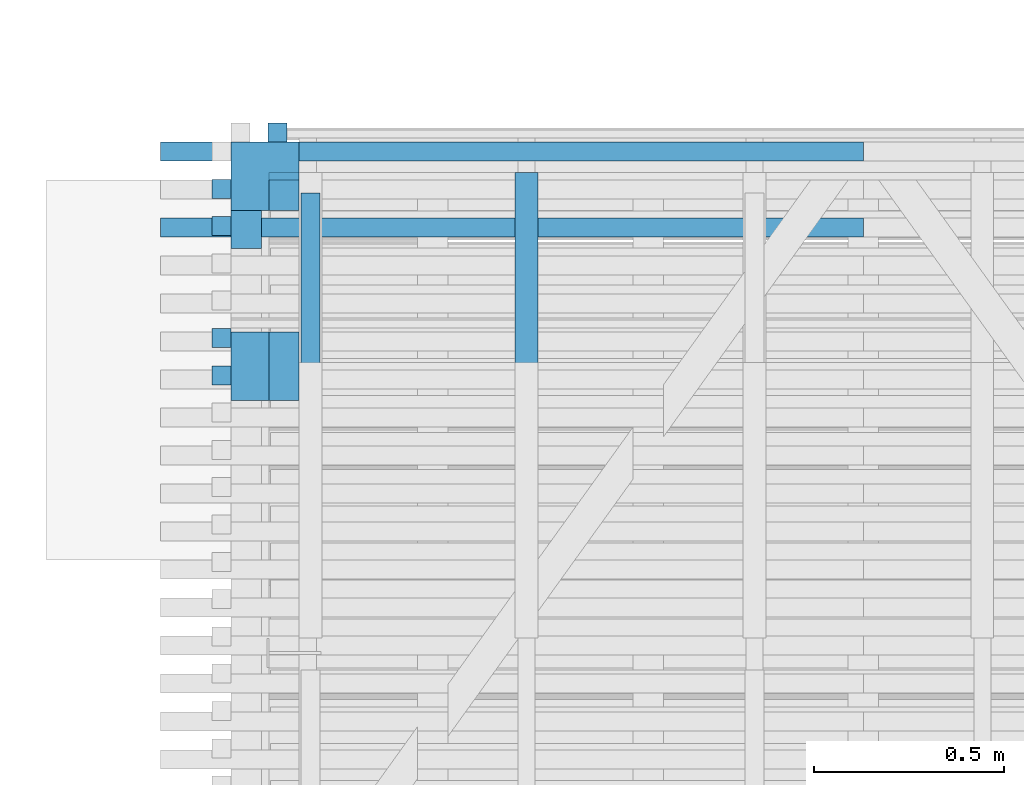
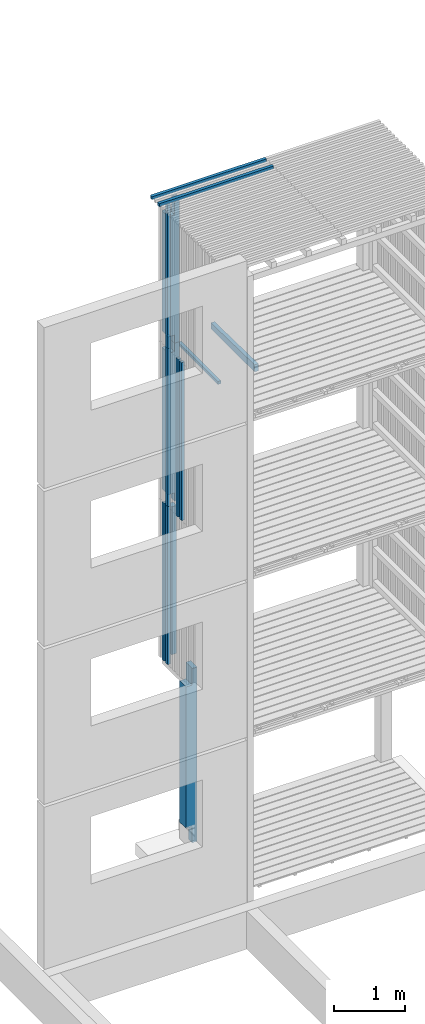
# One storey, part 93 of 182: 15 beams.
"""IFC2X3 building model written with IfcOpenShell, lengths in metres."""

from ifc_helpers import new_model, si_unit, frame, origin, place, context, project, spatial, faceted_brep, element, save


model = new_model("IFC2X3")

# Units and contexts
model_context = context("Model", 3, precision=1e-06, world=origin())
ifc_project = project(units=[si_unit("LENGTHUNIT", "METRE"), si_unit("PLANEANGLEUNIT", "RADIAN")], contexts=[model_context])

# Site, building, storey
site = spatial("IfcSite", under=ifc_project, CompositionType="ELEMENT")
building = spatial("IfcBuilding", under=site, CompositionType="ELEMENT")
storey = spatial("IfcBuildingStorey", under=building, Name="vs", CompositionType="ELEMENT", Elevation=-0.85)

# Beams
placement = place(None, origin())
beam_1_placement = place(placement, frame((43.105401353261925, 7.180077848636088, 7.979999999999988), z_axis=(0.0, -1.0, 0.0), x_axis=(0.0, 0.0, 1.0)))
element("IfcBeam", 1, at=beam_1_placement, inside=storey, Name="Poteau", context=model_context, shape_type="Brep", body=[
    faceted_brep([(2.194999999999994, -0.009999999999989, 0.089999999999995), (2.194999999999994, -0.009999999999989, 0.010000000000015), (2.194999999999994, -0.089999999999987, 0.010000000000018), (2.194999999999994, -0.089999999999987, -0.090000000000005), (2.194999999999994, 0.090000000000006, -0.090000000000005), (2.194999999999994, 0.090000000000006, 0.089999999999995), (0.139999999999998, 0.090000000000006, 0.089999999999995), (2.194999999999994, 0.090000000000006, 0.089999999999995), (2.194999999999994, 0.090000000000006, -0.090000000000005), (0.139999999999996, 0.090000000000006, -0.090000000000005), (0.059999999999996, -0.009999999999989, -0.009999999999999), (0.059999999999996, -0.089999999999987, -0.009999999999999), (-1e-15, -0.089999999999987, -0.009999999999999), (-1e-15, -0.009999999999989, -0.009999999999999), (-1e-15, -0.009999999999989, 0.089999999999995), (-1e-15, -0.009999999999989, -0.009999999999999), (-1e-15, -0.089999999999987, -0.009999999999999), (-1e-15, -0.089999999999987, 0.089999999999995), (0.139999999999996, -0.009999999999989, -0.090000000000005), (0.139999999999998, -0.009999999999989, 0.089999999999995), (0.139999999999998, 0.090000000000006, 0.089999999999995), (0.139999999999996, 0.090000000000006, -0.090000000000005), (0.059999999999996, -0.089999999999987, -0.009999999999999), (0.059999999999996, -0.009999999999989, -0.009999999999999), (0.059999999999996, -0.009999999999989, -0.090000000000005), (0.059999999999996, -0.089999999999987, -0.090000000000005), (-1e-15, -0.009999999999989, -0.009999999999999), (-1e-15, -0.009999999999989, 0.089999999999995), (0.139999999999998, -0.009999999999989, 0.089999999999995), (0.139999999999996, -0.009999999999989, -0.090000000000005), (0.059999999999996, -0.009999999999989, -0.090000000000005), (0.059999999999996, -0.009999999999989, -0.009999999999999), (0.059999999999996, -0.089999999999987, -0.090000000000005), (0.059999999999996, -0.009999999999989, -0.090000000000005), (0.139999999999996, -0.009999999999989, -0.090000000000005), (0.139999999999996, 0.090000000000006, -0.090000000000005), (2.194999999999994, 0.090000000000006, -0.090000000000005), (2.194999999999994, -0.089999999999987, -0.090000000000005), (2.474999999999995, -0.089999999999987, 0.089999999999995), (-1e-15, -0.089999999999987, 0.089999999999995), (-1e-15, -0.089999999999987, -0.009999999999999), (0.059999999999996, -0.089999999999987, -0.009999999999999), (0.059999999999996, -0.089999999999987, -0.090000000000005), (2.194999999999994, -0.089999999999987, -0.090000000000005), (2.194999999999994, -0.089999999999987, 0.010000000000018), (2.474999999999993, -0.089999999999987, 0.010000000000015), (2.474999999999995, -0.089999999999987, 0.089999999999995), (2.474999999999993, -0.089999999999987, 0.010000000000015), (2.474999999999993, -0.009999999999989, 0.010000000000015), (2.474999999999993, -0.009999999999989, 0.089999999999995), (2.194999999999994, -0.089999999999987, 0.010000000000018), (2.194999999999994, -0.009999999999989, 0.010000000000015), (2.474999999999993, -0.009999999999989, 0.010000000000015), (2.474999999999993, -0.089999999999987, 0.010000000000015), (2.474999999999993, -0.009999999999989, 0.089999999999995), (2.474999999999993, -0.009999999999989, 0.010000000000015), (2.194999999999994, -0.009999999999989, 0.010000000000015), (2.194999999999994, -0.009999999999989, 0.089999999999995), (2.474999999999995, -0.089999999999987, 0.089999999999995), (2.474999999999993, -0.009999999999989, 0.089999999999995), (2.194999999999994, -0.009999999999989, 0.089999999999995), (2.194999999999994, 0.090000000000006, 0.089999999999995), (0.139999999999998, 0.090000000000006, 0.089999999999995), (0.139999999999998, -0.009999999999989, 0.089999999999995), (-1e-15, -0.009999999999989, 0.089999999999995), (-1e-15, -0.089999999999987, 0.089999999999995)], [[[0, 1, 2, 3, 4, 5]], [[6, 7, 8, 9]], [[10, 11, 12, 13]], [[14, 15, 16, 17]], [[18, 19, 20, 21]], [[22, 23, 24, 25]], [[26, 27, 28, 29, 30, 31]], [[32, 33, 34, 35, 36, 37]], [[38, 39, 40, 41, 42, 43, 44, 45]], [[46, 47, 48, 49]], [[50, 51, 52, 53]], [[54, 55, 56, 57]], [[58, 59, 60, 61, 62, 63, 64, 65]]]),
])
beam_2_placement = place(placement, frame((43.79340135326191, 5.965077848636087, 8.00424999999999), z_axis=(0.0, 0.0, 1.0), x_axis=(0.0, 1.0, 0.0)))
element("IfcBeam", 2, at=beam_2_placement, inside=storey, Name="Solive", context=model_context, shape_type="Brep", body=[
    faceted_brep([(0.0, -0.030000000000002, -0.061849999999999), (1.225000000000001, -0.030000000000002, -0.061849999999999), (1.225000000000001, -0.030000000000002, 0.037349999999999), (0.0, -0.030000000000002, 0.061849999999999), (0.0, 0.030000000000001, 0.061850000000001), (0.0, 0.030000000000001, -0.061849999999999), (0.0, -0.030000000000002, -0.061849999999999), (0.0, -0.030000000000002, 0.061849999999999), (0.0, -0.030000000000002, -0.061849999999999), (0.0, 0.030000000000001, -0.061849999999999), (1.225000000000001, 0.030000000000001, -0.061849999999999), (1.225000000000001, -0.030000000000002, -0.061849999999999), (1.225000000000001, 0.030000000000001, -0.061849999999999), (0.0, 0.030000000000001, -0.061849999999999), (0.0, 0.030000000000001, 0.061850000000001), (1.225000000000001, 0.030000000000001, 0.037349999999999), (1.225000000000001, -0.030000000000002, 0.037349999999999), (1.225000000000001, -0.030000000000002, -0.061849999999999), (1.225000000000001, 0.030000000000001, -0.061849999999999), (1.225000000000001, 0.030000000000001, 0.037349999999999), (0.0, -0.030000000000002, 0.061849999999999), (1.225000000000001, -0.030000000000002, 0.037349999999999), (1.225000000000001, 0.030000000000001, 0.037349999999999), (0.0, 0.030000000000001, 0.061850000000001)], [[[0, 1, 2, 3]], [[4, 5, 6, 7]], [[8, 9, 10, 11]], [[12, 13, 14, 15]], [[16, 17, 18, 19]], [[20, 21, 22, 23]]]),
])
beam_3_placement = place(placement, frame((44.68040135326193, 7.24507784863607, 10.47999999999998), z_axis=(0.0, 0.0, 1.0), x_axis=(-1.0, 0.0, 0.0)))
element("IfcBeam", 3, at=beam_3_placement, inside=storey, Name="Bardage", context=model_context, shape_type="Brep", body=[
    faceted_brep([(1.850000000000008, -0.024999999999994, -0.024999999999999), (1.850000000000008, -0.024999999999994, 0.025000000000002), (-1e-15, -0.024999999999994, 0.025000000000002), (-1e-15, -0.024999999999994, -0.024999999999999), (1.850000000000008, -0.024999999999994, 0.025000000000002), (1.850000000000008, -0.024999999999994, -0.024999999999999), (1.850000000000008, 0.025000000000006, -0.024999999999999), (1.850000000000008, 0.025000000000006, 0.025000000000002), (1.850000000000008, 0.025000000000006, -0.024999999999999), (1.850000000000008, -0.024999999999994, -0.024999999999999), (-1e-15, -0.024999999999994, -0.024999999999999), (-1e-15, 0.025000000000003, -0.024999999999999), (1.850000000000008, 0.025000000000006, 0.025000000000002), (1.850000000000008, 0.025000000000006, -0.024999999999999), (-1e-15, 0.025000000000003, -0.024999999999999), (-1e-15, 0.025000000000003, 0.025000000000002), (-1e-15, -0.024999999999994, 0.025000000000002), (1.850000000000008, -0.024999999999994, 0.025000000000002), (1.850000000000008, 0.025000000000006, 0.025000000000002), (-1e-15, 0.025000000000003, 0.025000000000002), (-1e-15, -0.024999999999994, -0.024999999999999), (-1e-15, -0.024999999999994, 0.025000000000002), (-1e-15, 0.025000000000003, 0.025000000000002), (-1e-15, 0.025000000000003, -0.024999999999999)], [[[0, 1, 2, 3]], [[4, 5, 6, 7]], [[8, 9, 10, 11]], [[12, 13, 14, 15]], [[16, 17, 18, 19]], [[20, 21, 22, 23]]]),
])
beam_4_placement = place(placement, frame((43.225401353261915, 7.135077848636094, 7.91739999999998), z_axis=(0.0, 0.0, 1.0), x_axis=(0.0, -1.0, 0.0)))
element("IfcBeam", 4, at=beam_4_placement, inside=storey, Name="Calage", context=model_context, shape_type="Brep", body=[
    faceted_brep([(2e-15, 0.025000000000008, -0.025), (2e-15, -0.024999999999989, -0.025), (2e-15, -0.024999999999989, 0.024999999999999), (2e-15, 0.025000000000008, 0.024999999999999), (1.115000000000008, -0.024999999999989, 0.024999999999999), (1.115000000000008, -0.024999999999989, -0.025), (1.115000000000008, 0.025000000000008, -0.025), (1.115000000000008, 0.025000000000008, 0.024999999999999), (2e-15, -0.024999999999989, 0.024999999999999), (2e-15, -0.024999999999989, -0.025), (1.115000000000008, -0.024999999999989, -0.025), (1.115000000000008, -0.024999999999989, 0.024999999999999), (1.115000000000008, -0.024999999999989, -0.025), (2e-15, -0.024999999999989, -0.025), (2e-15, 0.025000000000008, -0.025), (1.115000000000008, 0.025000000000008, -0.025), (1.115000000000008, 0.025000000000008, -0.025), (2e-15, 0.025000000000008, -0.025), (2e-15, 0.025000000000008, 0.024999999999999), (1.115000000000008, 0.025000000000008, 0.024999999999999), (1.115000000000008, 0.025000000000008, 0.024999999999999), (2e-15, 0.025000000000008, 0.024999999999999), (2e-15, -0.024999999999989, 0.024999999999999), (1.115000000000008, -0.024999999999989, 0.024999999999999)], [[[0, 1, 2, 3]], [[4, 5, 6, 7]], [[8, 9, 10, 11]], [[12, 13, 14, 15]], [[16, 17, 18, 19]], [[20, 21, 22, 23]]]),
])
beam_5_placement = place(placement, frame((43.10540135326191, 6.680077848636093, -0.259999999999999), z_axis=(0.0, -1.0, 0.0), x_axis=(0.0, 0.0, 1.0)))
element("IfcBeam", 5, at=beam_5_placement, inside=storey, Name="Poteau", context=model_context, shape_type="Brep", body=[
    faceted_brep([(0.0, -0.010000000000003, 0.090000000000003), (0.0, -0.010000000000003, -0.009999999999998), (0.0, -0.090000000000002, -0.009999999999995), (0.0, -0.090000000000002, 0.090000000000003), (0.280000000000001, -0.010000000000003, -0.089999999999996), (0.28, -0.010000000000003, 0.090000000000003), (0.28, 0.089999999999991, 0.090000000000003), (0.280000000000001, 0.089999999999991, -0.089999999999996), (0.200000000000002, -0.090000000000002, -0.009999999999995), (0.200000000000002, -0.010000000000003, -0.009999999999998), (0.200000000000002, -0.010000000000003, -0.089999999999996), (0.200000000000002, -0.090000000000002, -0.089999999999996), (0.0, -0.010000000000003, -0.009999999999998), (0.0, -0.010000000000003, 0.090000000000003), (0.28, -0.010000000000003, 0.090000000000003), (0.280000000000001, -0.010000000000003, -0.089999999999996), (0.200000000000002, -0.010000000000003, -0.089999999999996), (0.200000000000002, -0.010000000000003, -0.009999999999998), (0.0, -0.010000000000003, -0.009999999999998), (0.200000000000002, -0.010000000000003, -0.009999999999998), (0.200000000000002, -0.090000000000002, -0.009999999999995), (0.0, -0.090000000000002, -0.009999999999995), (0.280000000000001, 0.089999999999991, -0.089999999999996), (0.28, 0.089999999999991, 0.090000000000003), (2.699999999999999, 0.089999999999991, 0.090000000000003), (2.699999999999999, 0.089999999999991, -0.089999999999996), (2.979999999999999, -0.010000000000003, 0.090000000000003), (2.699999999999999, -0.010000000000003, 0.090000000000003), (2.699999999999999, 0.089999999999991, 0.090000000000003), (0.28, 0.089999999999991, 0.090000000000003), (0.28, -0.010000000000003, 0.090000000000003), (0.0, -0.010000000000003, 0.090000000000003), (0.0, -0.090000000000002, 0.090000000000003), (2.979999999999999, -0.090000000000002, 0.090000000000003), (2.979999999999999, -0.090000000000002, 0.090000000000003), (0.0, -0.090000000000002, 0.090000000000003), (0.0, -0.090000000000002, -0.009999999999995), (0.200000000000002, -0.090000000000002, -0.009999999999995), (0.200000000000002, -0.090000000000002, -0.089999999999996), (2.979999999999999, -0.090000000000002, -0.089999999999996), (2.979999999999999, -0.010000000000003, -0.089999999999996), (2.979999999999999, -0.090000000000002, -0.089999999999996), (0.200000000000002, -0.090000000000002, -0.089999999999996), (0.200000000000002, -0.010000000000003, -0.089999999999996), (0.280000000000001, -0.010000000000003, -0.089999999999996), (0.280000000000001, 0.089999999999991, -0.089999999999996), (2.699999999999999, 0.089999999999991, -0.089999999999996), (2.699999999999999, -0.010000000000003, -0.089999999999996), (2.699999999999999, -0.010000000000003, -0.089999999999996), (2.699999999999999, 0.089999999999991, -0.089999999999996), (2.699999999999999, 0.089999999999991, 0.090000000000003), (2.699999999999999, -0.010000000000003, 0.090000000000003), (2.979999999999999, -0.010000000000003, -0.089999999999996), (2.699999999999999, -0.010000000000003, -0.089999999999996), (2.699999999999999, -0.010000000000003, 0.090000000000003), (2.979999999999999, -0.010000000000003, 0.090000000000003), (2.979999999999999, -0.010000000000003, -0.089999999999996), (2.979999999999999, -0.010000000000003, 0.090000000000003), (2.979999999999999, -0.090000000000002, 0.090000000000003), (2.979999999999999, -0.090000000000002, -0.089999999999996)], [[[0, 1, 2, 3]], [[4, 5, 6, 7]], [[8, 9, 10, 11]], [[12, 13, 14, 15, 16, 17]], [[18, 19, 20, 21]], [[22, 23, 24, 25]], [[26, 27, 28, 29, 30, 31, 32, 33]], [[34, 35, 36, 37, 38, 39]], [[40, 41, 42, 43, 44, 45, 46, 47]], [[48, 49, 50, 51]], [[52, 53, 54, 55]], [[56, 57, 58, 59]]]),
])
beam_6_placement = place(placement, frame((43.10540135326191, 7.180077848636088, 5.279999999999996), z_axis=(0.0, -1.0, 0.0), x_axis=(0.0, 0.0, 1.0)))
element("IfcBeam", 6, at=beam_6_placement, inside=storey, Name="Poteau", context=model_context, shape_type="Brep", body=[
    faceted_brep([(0.059999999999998, -0.010000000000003, -0.010000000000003), (0.059999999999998, -0.090000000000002, -0.009999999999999), (-1e-15, -0.090000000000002, -0.010000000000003), (-1e-15, -0.010000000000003, -0.010000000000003), (-1e-15, -0.010000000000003, 0.089999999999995), (-1e-15, -0.010000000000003, -0.010000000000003), (-1e-15, -0.090000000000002, -0.010000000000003), (-1e-15, -0.090000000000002, 0.089999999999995), (0.139999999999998, -0.010000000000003, -0.090000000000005), (0.139999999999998, -0.010000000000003, 0.089999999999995), (0.139999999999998, 0.089999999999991, 0.089999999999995), (0.139999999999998, 0.089999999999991, -0.090000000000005), (0.059999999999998, -0.090000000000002, -0.009999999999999), (0.059999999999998, -0.010000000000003, -0.010000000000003), (0.059999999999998, -0.010000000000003, -0.090000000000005), (0.059999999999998, -0.090000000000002, -0.090000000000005), (-1e-15, -0.010000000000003, -0.010000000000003), (-1e-15, -0.010000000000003, 0.089999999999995), (0.139999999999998, -0.010000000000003, 0.089999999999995), (0.139999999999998, -0.010000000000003, -0.090000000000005), (0.059999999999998, -0.010000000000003, -0.090000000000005), (0.059999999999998, -0.010000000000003, -0.010000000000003), (0.059999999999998, -0.090000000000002, -0.090000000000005), (0.059999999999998, -0.010000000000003, -0.090000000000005), (0.139999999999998, -0.010000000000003, -0.090000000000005), (0.139999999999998, 0.089999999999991, -0.090000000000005), (2.559999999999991, 0.089999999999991, -0.090000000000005), (2.559999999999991, -0.090000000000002, -0.090000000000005), (2.699999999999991, -0.090000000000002, -0.009999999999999), (2.699999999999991, -0.090000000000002, 0.089999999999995), (-1e-15, -0.090000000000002, 0.089999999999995), (-1e-15, -0.090000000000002, -0.010000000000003), (0.059999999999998, -0.090000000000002, -0.009999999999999), (0.059999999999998, -0.090000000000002, -0.090000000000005), (2.559999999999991, -0.090000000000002, -0.090000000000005), (2.559999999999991, -0.090000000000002, -0.009999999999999), (2.559999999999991, 0.089999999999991, -0.090000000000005), (0.139999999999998, 0.089999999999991, -0.090000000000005), (0.139999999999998, 0.089999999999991, 0.089999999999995), (2.559999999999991, 0.089999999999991, 0.089999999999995), (2.699999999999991, -0.010000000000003, 0.089999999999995), (2.559999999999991, -0.010000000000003, 0.089999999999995), (2.559999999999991, 0.089999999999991, 0.089999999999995), (0.139999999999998, 0.089999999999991, 0.089999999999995), (0.139999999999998, -0.010000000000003, 0.089999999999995), (-1e-15, -0.010000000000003, 0.089999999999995), (-1e-15, -0.090000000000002, 0.089999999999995), (2.699999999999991, -0.090000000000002, 0.089999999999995), (2.699999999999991, -0.090000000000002, -0.009999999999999), (2.559999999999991, -0.090000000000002, -0.009999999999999), (2.559999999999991, -0.010000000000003, -0.010000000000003), (2.699999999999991, -0.010000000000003, -0.009999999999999), (2.699999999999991, -0.010000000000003, 0.089999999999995), (2.699999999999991, -0.090000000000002, 0.089999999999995), (2.699999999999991, -0.090000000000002, -0.009999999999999), (2.699999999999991, -0.010000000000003, -0.009999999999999), (2.559999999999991, -0.010000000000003, 0.089999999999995), (2.699999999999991, -0.010000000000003, 0.089999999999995), (2.699999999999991, -0.010000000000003, -0.009999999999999), (2.559999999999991, -0.010000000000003, -0.010000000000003), (2.559999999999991, 0.089999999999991, -0.090000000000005), (2.559999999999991, 0.089999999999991, 0.089999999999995), (2.559999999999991, -0.010000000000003, 0.089999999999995), (2.559999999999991, -0.010000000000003, -0.010000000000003), (2.559999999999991, -0.090000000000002, -0.009999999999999), (2.559999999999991, -0.090000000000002, -0.090000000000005)], [[[0, 1, 2, 3]], [[4, 5, 6, 7]], [[8, 9, 10, 11]], [[12, 13, 14, 15]], [[16, 17, 18, 19, 20, 21]], [[22, 23, 24, 25, 26, 27]], [[28, 29, 30, 31, 32, 33, 34, 35]], [[36, 37, 38, 39]], [[40, 41, 42, 43, 44, 45, 46, 47]], [[48, 49, 50, 51]], [[52, 53, 54, 55]], [[56, 57, 58, 59]], [[60, 61, 62, 63, 64, 65]]]),
])
beam_7_placement = place(placement, frame((44.68040135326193, 7.045077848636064, 10.47999999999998), z_axis=(0.0, 0.0, 1.0), x_axis=(-1.0, 0.0, 0.0)))
element("IfcBeam", 7, at=beam_7_placement, inside=storey, Name="Bardage", context=model_context, shape_type="Brep", body=[
    faceted_brep([(1.850000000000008, -0.024999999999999, -0.024999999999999), (1.850000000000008, -0.024999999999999, 0.025000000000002), (-1e-15, -0.025000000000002, 0.025000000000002), (-1e-15, -0.025000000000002, -0.024999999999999), (1.850000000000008, -0.024999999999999, 0.025000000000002), (1.850000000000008, -0.024999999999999, -0.024999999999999), (1.850000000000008, 0.024999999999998, -0.024999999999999), (1.850000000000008, 0.024999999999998, 0.025000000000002), (1.850000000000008, 0.024999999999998, -0.024999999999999), (1.850000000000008, -0.024999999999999, -0.024999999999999), (-1e-15, -0.025000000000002, -0.024999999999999), (-1e-15, 0.024999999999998, -0.024999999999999), (1.850000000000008, 0.024999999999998, 0.025000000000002), (1.850000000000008, 0.024999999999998, -0.024999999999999), (-1e-15, 0.024999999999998, -0.024999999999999), (-1e-15, 0.024999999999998, 0.025000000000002), (-1e-15, -0.025000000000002, 0.025000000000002), (1.850000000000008, -0.024999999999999, 0.025000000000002), (1.850000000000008, 0.024999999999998, 0.025000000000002), (-1e-15, 0.024999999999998, 0.025000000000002), (-1e-15, -0.025000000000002, -0.024999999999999), (-1e-15, -0.025000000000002, 0.025000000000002), (-1e-15, 0.024999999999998, 0.025000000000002), (-1e-15, 0.024999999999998, -0.024999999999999)], [[[0, 1, 2, 3]], [[4, 5, 6, 7]], [[8, 9, 10, 11]], [[12, 13, 14, 15]], [[16, 17, 18, 19]], [[20, 21, 22, 23]]]),
])
beam_8_placement = place(placement, frame((43.13858317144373, 7.295077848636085, 5.274999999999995), z_axis=(0.0, -1.0, 0.0), x_axis=(0.0, 0.0, 1.0)))
element("IfcBeam", 8, at=beam_8_placement, inside=storey, Name="Bardage", context=model_context, shape_type="Brep", body=[
    faceted_brep([(1e-15, -0.025000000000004, 0.024999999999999), (1e-15, 0.024999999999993, 0.025000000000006), (1e-15, 0.025000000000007, -0.024999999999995), (1e-15, -0.025000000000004, -0.025000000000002), (2.699999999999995, -0.025000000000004, -0.025000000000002), (2.699999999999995, 0.025000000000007, -0.024999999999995), (2.699999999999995, 0.024999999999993, 0.025000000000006), (2.699999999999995, -0.025000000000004, 0.024999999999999), (1e-15, -0.025000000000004, 0.024999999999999), (1e-15, -0.025000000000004, -0.025000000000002), (2.699999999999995, -0.025000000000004, -0.025000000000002), (2.699999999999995, -0.025000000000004, 0.024999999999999), (2.699999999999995, -0.025000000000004, -0.025000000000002), (1e-15, -0.025000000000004, -0.025000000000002), (1e-15, 0.025000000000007, -0.024999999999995), (2.699999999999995, 0.025000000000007, -0.024999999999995), (2.699999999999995, 0.025000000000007, -0.024999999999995), (1e-15, 0.025000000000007, -0.024999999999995), (1e-15, 0.024999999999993, 0.025000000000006), (2.699999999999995, 0.024999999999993, 0.025000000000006), (2.699999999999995, 0.024999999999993, 0.025000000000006), (1e-15, 0.024999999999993, 0.025000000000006), (1e-15, -0.025000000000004, 0.024999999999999), (2.699999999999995, -0.025000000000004, 0.024999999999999)], [[[0, 1, 2, 3]], [[4, 5, 6, 7]], [[8, 9, 10, 11]], [[12, 13, 14, 15]], [[16, 17, 18, 19]], [[20, 21, 22, 23]]]),
])
beam_9_placement = place(placement, frame((42.99040135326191, 7.048714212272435, 7.974999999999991), z_axis=(1.0, 0.0, 0.0), x_axis=(0.0, 0.0, 1.0)))
element("IfcBeam", 9, at=beam_9_placement, inside=storey, Name="Bardage", context=model_context, shape_type="Brep", body=[
    faceted_brep([(0.0, -0.024999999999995, 0.025000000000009), (0.0, 0.025000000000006, 0.025000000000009), (0.0, 0.025000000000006, -0.025000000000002), (0.0, -0.024999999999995, -0.025000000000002), (2.479999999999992, 0.025000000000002, -0.025000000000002), (2.479999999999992, 0.025000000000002, 0.025000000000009), (2.479999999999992, -0.024999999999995, 0.025000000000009), (2.479999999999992, -0.024999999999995, -0.025000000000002), (0.0, 0.025000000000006, 0.025000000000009), (0.0, -0.024999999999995, 0.025000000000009), (2.479999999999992, -0.024999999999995, 0.025000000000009), (2.479999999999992, 0.025000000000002, 0.025000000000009), (0.0, 0.025000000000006, -0.025000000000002), (0.0, 0.025000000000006, 0.025000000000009), (2.479999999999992, 0.025000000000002, 0.025000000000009), (2.479999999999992, 0.025000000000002, -0.025000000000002), (0.0, -0.024999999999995, -0.025000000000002), (0.0, 0.025000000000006, -0.025000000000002), (2.479999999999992, 0.025000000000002, -0.025000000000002), (2.479999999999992, -0.024999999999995, -0.025000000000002), (2.479999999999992, -0.024999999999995, 0.025000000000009), (0.0, -0.024999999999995, 0.025000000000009), (0.0, -0.024999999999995, -0.025000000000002), (2.479999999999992, -0.024999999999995, -0.025000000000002)], [[[0, 1, 2, 3]], [[4, 5, 6, 7]], [[8, 9, 10, 11]], [[12, 13, 14, 15]], [[16, 17, 18, 19]], [[20, 21, 22, 23]]]),
])
beam_10_placement = place(placement, frame((42.99040135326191, 7.048714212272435, 5.274999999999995), z_axis=(1.0, 0.0, 0.0), x_axis=(0.0, 0.0, 1.0)))
element("IfcBeam", 10, at=beam_10_placement, inside=storey, Name="Bardage", context=model_context, shape_type="Brep", body=[
    faceted_brep([(2.699999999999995, 0.025000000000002, 0.025000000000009), (2.699999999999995, -0.024999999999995, 0.025000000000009), (2.699999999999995, -0.024999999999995, -0.025000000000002), (2.699999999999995, 0.025000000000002, -0.025000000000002), (1e-15, 0.025000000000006, 0.025000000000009), (2.699999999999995, 0.025000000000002, 0.025000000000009), (2.699999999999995, 0.025000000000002, -0.025000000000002), (1e-15, 0.025000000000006, -0.025000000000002), (1e-15, -0.024999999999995, 0.025000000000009), (1e-15, 0.025000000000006, 0.025000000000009), (1e-15, 0.025000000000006, -0.025000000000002), (1e-15, -0.024999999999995, -0.025000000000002), (1e-15, 0.025000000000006, 0.025000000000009), (1e-15, -0.024999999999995, 0.025000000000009), (2.699999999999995, -0.024999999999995, 0.025000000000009), (2.699999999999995, 0.025000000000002, 0.025000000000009), (1e-15, -0.024999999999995, 0.025000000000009), (1e-15, -0.024999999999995, -0.025000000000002), (2.699999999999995, -0.024999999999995, -0.025000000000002), (2.699999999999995, -0.024999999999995, 0.025000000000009), (1e-15, -0.024999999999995, -0.025000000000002), (1e-15, 0.025000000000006, -0.025000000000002), (2.699999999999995, 0.025000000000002, -0.025000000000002), (2.699999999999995, -0.024999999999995, -0.025000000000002)], [[[0, 1, 2, 3]], [[4, 5, 6, 7]], [[8, 9, 10, 11]], [[12, 13, 14, 15]], [[16, 17, 18, 19]], [[20, 21, 22, 23]]]),
])
beam_11_placement = place(placement, frame((42.99040135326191, 7.048714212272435, 2.575000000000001), z_axis=(1.0, 0.0, 0.0), x_axis=(0.0, 0.0, 1.0)))
element("IfcBeam", 11, at=beam_11_placement, inside=storey, Name="Bardage", context=model_context, shape_type="Brep", body=[
    faceted_brep([(2.699961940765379, -0.024999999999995, 0.025000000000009), (2.699961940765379, -0.024999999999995, -0.025000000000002), (2.699961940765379, 0.025000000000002, -0.025000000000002), (2.699961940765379, 0.025000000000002, 0.025000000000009), (0.0, -0.024999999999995, 0.025000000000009), (2.699961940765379, -0.024999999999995, 0.025000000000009), (2.699961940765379, 0.025000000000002, 0.025000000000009), (0.0, 0.025000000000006, 0.025000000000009), (0.0, -0.024999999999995, 0.025000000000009), (0.0, 0.025000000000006, 0.025000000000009), (0.0, 0.025000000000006, -0.025000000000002), (0.0, -0.024999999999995, -0.025000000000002), (0.0, -0.024999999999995, 0.025000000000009), (0.0, -0.024999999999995, -0.025000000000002), (2.699961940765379, -0.024999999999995, -0.025000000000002), (2.699961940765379, -0.024999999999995, 0.025000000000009), (0.0, -0.024999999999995, -0.025000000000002), (0.0, 0.025000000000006, -0.025000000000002), (2.699961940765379, 0.025000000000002, -0.025000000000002), (2.699961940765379, -0.024999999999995, -0.025000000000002), (0.0, 0.025000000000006, -0.025000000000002), (0.0, 0.025000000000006, 0.025000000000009), (2.699961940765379, 0.025000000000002, 0.025000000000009), (2.699961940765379, 0.025000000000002, -0.025000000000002)], [[[0, 1, 2, 3]], [[4, 5, 6, 7]], [[8, 9, 10, 11]], [[12, 13, 14, 15]], [[16, 17, 18, 19]], [[20, 21, 22, 23]]]),
])
beam_12_placement = place(placement, frame((42.99040135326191, 6.754168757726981, 5.274999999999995), z_axis=(1.0, 0.0, 0.0), x_axis=(0.0, 0.0, 1.0)))
element("IfcBeam", 12, at=beam_12_placement, inside=storey, Name="Bardage", context=model_context, shape_type="Brep", body=[
    faceted_brep([(2.699999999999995, 0.025000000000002, 0.025000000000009), (2.699999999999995, -0.024999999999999, 0.025000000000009), (2.699999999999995, -0.024999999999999, -0.025000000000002), (2.699999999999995, 0.025000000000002, -0.025000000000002), (1e-15, 0.025000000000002, 0.025000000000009), (2.699999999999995, 0.025000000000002, 0.025000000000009), (2.699999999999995, 0.025000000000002, -0.025000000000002), (1e-15, 0.025000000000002, -0.025000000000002), (1e-15, -0.024999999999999, 0.025000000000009), (1e-15, 0.025000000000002, 0.025000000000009), (1e-15, 0.025000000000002, -0.025000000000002), (1e-15, -0.024999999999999, -0.025000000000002), (1e-15, 0.025000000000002, 0.025000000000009), (1e-15, -0.024999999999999, 0.025000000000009), (2.699999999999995, -0.024999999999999, 0.025000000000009), (2.699999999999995, 0.025000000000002, 0.025000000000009), (1e-15, -0.024999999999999, 0.025000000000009), (1e-15, -0.024999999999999, -0.025000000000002), (2.699999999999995, -0.024999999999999, -0.025000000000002), (2.699999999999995, -0.024999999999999, 0.025000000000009), (1e-15, -0.024999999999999, -0.025000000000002), (1e-15, 0.025000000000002, -0.025000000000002), (2.699999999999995, 0.025000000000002, -0.025000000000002), (2.699999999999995, -0.024999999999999, -0.025000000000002)], [[[0, 1, 2, 3]], [[4, 5, 6, 7]], [[8, 9, 10, 11]], [[12, 13, 14, 15]], [[16, 17, 18, 19]], [[20, 21, 22, 23]]]),
])
beam_13_placement = place(placement, frame((43.055401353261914, 7.04007784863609, 2.746999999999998), z_axis=(0.0, -1.0, 0.0), x_axis=(0.0, 0.0, 1.0)))
element("IfcBeam", 13, at=beam_13_placement, inside=storey, Name="Support bardage", context=model_context, shape_type="Brep", body=[
    faceted_brep([(2.527961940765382, 0.039999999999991, 0.049999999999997), (2.527961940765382, -0.040000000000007, 0.049999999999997), (2.527961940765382, -0.040000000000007, -0.050000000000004), (2.527961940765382, 0.039999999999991, -0.050000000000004), (0.0, 0.039999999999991, 0.049999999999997), (2.527961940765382, 0.039999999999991, 0.049999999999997), (2.527961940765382, 0.039999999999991, -0.050000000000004), (0.0, 0.039999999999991, -0.050000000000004), (0.0, 0.039999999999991, 0.049999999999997), (0.0, 0.039999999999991, -0.050000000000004), (0.0, -0.040000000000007, -0.050000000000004), (0.0, -0.040000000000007, 0.049999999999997), (0.0, 0.039999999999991, 0.049999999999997), (0.0, -0.040000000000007, 0.049999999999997), (2.527961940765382, -0.040000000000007, 0.049999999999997), (2.527961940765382, 0.039999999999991, 0.049999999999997), (0.0, -0.040000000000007, 0.049999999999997), (0.0, -0.040000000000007, -0.050000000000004), (2.527961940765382, -0.040000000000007, -0.050000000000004), (2.527961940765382, -0.040000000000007, 0.049999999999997), (0.0, -0.040000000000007, -0.050000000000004), (0.0, 0.039999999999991, -0.050000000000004), (2.527961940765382, 0.039999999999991, -0.050000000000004), (2.527961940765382, -0.040000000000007, -0.050000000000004)], [[[0, 1, 2, 3]], [[4, 5, 6, 7]], [[8, 9, 10, 11]], [[12, 13, 14, 15]], [[16, 17, 18, 19]], [[20, 21, 22, 23]]]),
])
beam_14_placement = place(placement, frame((42.99040135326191, 7.146896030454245, 2.575000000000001), z_axis=(1.0, 0.0, 0.0), x_axis=(0.0, 0.0, 1.0)))
element("IfcBeam", 14, at=beam_14_placement, inside=storey, Name="Bardage", context=model_context, shape_type="Brep", body=[
    faceted_brep([(2.699961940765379, -0.025000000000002, 0.025000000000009), (2.699961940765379, -0.025000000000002, -0.025000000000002), (2.699961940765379, 0.024999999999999, -0.025000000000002), (2.699961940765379, 0.024999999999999, 0.025000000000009), (0.0, -0.024999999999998, 0.025000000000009), (2.699961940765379, -0.025000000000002, 0.025000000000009), (2.699961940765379, 0.024999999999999, 0.025000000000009), (0.0, 0.024999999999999, 0.025000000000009), (0.0, -0.024999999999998, 0.025000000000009), (0.0, 0.024999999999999, 0.025000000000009), (0.0, 0.024999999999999, -0.025000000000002), (0.0, -0.024999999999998, -0.025000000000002), (0.0, -0.024999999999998, 0.025000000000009), (0.0, -0.024999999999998, -0.025000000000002), (2.699961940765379, -0.025000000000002, -0.025000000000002), (2.699961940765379, -0.025000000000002, 0.025000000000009), (0.0, -0.024999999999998, -0.025000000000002), (0.0, 0.024999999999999, -0.025000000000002), (2.699961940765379, 0.024999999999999, -0.025000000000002), (2.699961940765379, -0.025000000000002, -0.025000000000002), (0.0, 0.024999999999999, -0.025000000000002), (0.0, 0.024999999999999, 0.025000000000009), (2.699961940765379, 0.024999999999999, 0.025000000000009), (2.699961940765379, 0.024999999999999, -0.025000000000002)], [[[0, 1, 2, 3]], [[4, 5, 6, 7]], [[8, 9, 10, 11]], [[12, 13, 14, 15]], [[16, 17, 18, 19]], [[20, 21, 22, 23]]]),
])
beam_15_placement = place(placement, frame((42.99040135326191, 6.65598693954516, 5.274999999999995), z_axis=(1.0, 0.0, 0.0), x_axis=(0.0, 0.0, 1.0)))
element("IfcBeam", 15, at=beam_15_placement, inside=storey, Name="Bardage", context=model_context, shape_type="Brep", body=[
    faceted_brep([(2.699999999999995, 0.024999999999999, 0.025000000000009), (2.699999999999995, -0.025000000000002, 0.025000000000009), (2.699999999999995, -0.025000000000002, -0.025000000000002), (2.699999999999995, 0.024999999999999, -0.025000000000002), (1e-15, 0.024999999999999, 0.025000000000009), (2.699999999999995, 0.024999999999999, 0.025000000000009), (2.699999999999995, 0.024999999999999, -0.025000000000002), (1e-15, 0.024999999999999, -0.025000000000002), (1e-15, -0.025000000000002, 0.025000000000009), (1e-15, 0.024999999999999, 0.025000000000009), (1e-15, 0.024999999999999, -0.025000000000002), (1e-15, -0.025000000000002, -0.025000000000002), (1e-15, 0.024999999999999, 0.025000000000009), (1e-15, -0.025000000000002, 0.025000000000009), (2.699999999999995, -0.025000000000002, 0.025000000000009), (2.699999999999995, 0.024999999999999, 0.025000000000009), (1e-15, -0.025000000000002, 0.025000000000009), (1e-15, -0.025000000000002, -0.025000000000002), (2.699999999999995, -0.025000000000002, -0.025000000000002), (2.699999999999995, -0.025000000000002, 0.025000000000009), (1e-15, -0.025000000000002, -0.025000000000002), (1e-15, 0.024999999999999, -0.025000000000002), (2.699999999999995, 0.024999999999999, -0.025000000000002), (2.699999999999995, -0.025000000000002, -0.025000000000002)], [[[0, 1, 2, 3]], [[4, 5, 6, 7]], [[8, 9, 10, 11]], [[12, 13, 14, 15]], [[16, 17, 18, 19]], [[20, 21, 22, 23]]]),
])

save(model, "model.ifc")
